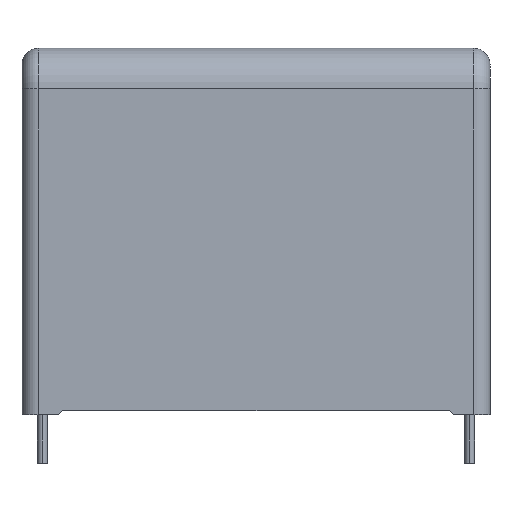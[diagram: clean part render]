
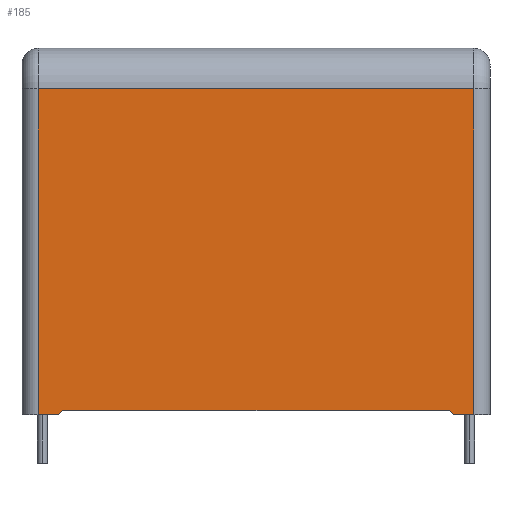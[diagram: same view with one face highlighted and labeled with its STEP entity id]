
A CAD part, top view. The second image highlights one B-rep face of the part: STEP entity #185.
In plain terms, the highlighted planar face has unit normal (0, 0, 1).
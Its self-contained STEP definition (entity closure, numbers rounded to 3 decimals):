
#76 = VECTOR ( 'NONE', #3371, 1000. ) ;
#79 = LINE ( 'NONE', #1671, #76 ) ;
#159 = CARTESIAN_POINT ( 'NONE',  ( -23.75, 0.5, 15. ) ) ;
#185 = ADVANCED_FACE ( 'NONE', ( #4468 ), #587, .F. ) ;
#393 = VERTEX_POINT ( 'NONE', #4246 ) ;
#485 = VECTOR ( 'NONE', #2823, 1000. ) ;
#522 = AXIS2_PLACEMENT_3D ( 'NONE', #581, #566, #563 ) ;
#563 = DIRECTION ( 'NONE',  ( -1., 0., 0. ) ) ;
#566 = DIRECTION ( 'NONE',  ( 0., 0., -1. ) ) ;
#576 = CARTESIAN_POINT ( 'NONE',  ( 26.75, 40., 15. ) ) ;
#581 = CARTESIAN_POINT ( 'NONE',  ( -28.75, 45., 15. ) ) ;
#587 = PLANE ( 'NONE',  #522 ) ;
#610 = CARTESIAN_POINT ( 'NONE',  ( -28.75, 0., 15. ) ) ;
#640 = VECTOR ( 'NONE', #3633, 1000. ) ;
#1143 = CARTESIAN_POINT ( 'NONE',  ( -28.75, 40., 15. ) ) ;
#1210 = DIRECTION ( 'NONE',  ( 0., 1., 0. ) ) ;
#1287 = CARTESIAN_POINT ( 'NONE',  ( -26.75, 0., 15. ) ) ;
#1342 = VERTEX_POINT ( 'NONE', #576 ) ;
#1347 = EDGE_LOOP ( 'NONE', ( #4152, #4167, #4186, #4194, #4209, #4215, #4222, #4235 ) ) ;
#1579 = CARTESIAN_POINT ( 'NONE',  ( -23.75, 0.5, 15. ) ) ;
#1581 = VERTEX_POINT ( 'NONE', #1823 ) ;
#1671 = CARTESIAN_POINT ( 'NONE',  ( -28.75, 0., 15. ) ) ;
#1714 = DIRECTION ( 'NONE',  ( -0.707, -0.707, 0. ) ) ;
#1720 = CARTESIAN_POINT ( 'NONE',  ( -26.75, 40., 15. ) ) ;
#1765 = VERTEX_POINT ( 'NONE', #1579 ) ;
#1818 = DIRECTION ( 'NONE',  ( 0., -1., 0. ) ) ;
#1823 = CARTESIAN_POINT ( 'NONE',  ( 23.75, 0.5, 15. ) ) ;
#1884 = LINE ( 'NONE', #3882, #2466 ) ;
#2039 = VERTEX_POINT ( 'NONE', #1287 ) ;
#2134 = LINE ( 'NONE', #610, #3056 ) ;
#2146 = EDGE_CURVE ( 'NONE', #4353, #2997, #79, .T. ) ;
#2228 = LINE ( 'NONE', #3178, #4011 ) ;
#2232 = EDGE_CURVE ( 'NONE', #1765, #393, #4492, .T. ) ;
#2466 = VECTOR ( 'NONE', #1210, 1000. ) ;
#2473 = VECTOR ( 'NONE', #3836, 1000. ) ;
#2475 = EDGE_CURVE ( 'NONE', #2039, #393, #2134, .T. ) ;
#2600 = CARTESIAN_POINT ( 'NONE',  ( 26.75, 0., 15. ) ) ;
#2731 = EDGE_CURVE ( 'NONE', #4162, #2039, #2228, .T. ) ;
#2757 = CARTESIAN_POINT ( 'NONE',  ( 23.75, 0.5, 15. ) ) ;
#2823 = DIRECTION ( 'NONE',  ( -1., 0., 0. ) ) ;
#2941 = EDGE_CURVE ( 'NONE', #1342, #4162, #3806, .T. ) ;
#2997 = VERTEX_POINT ( 'NONE', #2600 ) ;
#3056 = VECTOR ( 'NONE', #3449, 1000. ) ;
#3079 = CARTESIAN_POINT ( 'NONE',  ( -24.25, 0., 15. ) ) ;
#3141 = EDGE_CURVE ( 'NONE', #2997, #1342, #1884, .T. ) ;
#3178 = CARTESIAN_POINT ( 'NONE',  ( -26.75, 45., 15. ) ) ;
#3249 = LINE ( 'NONE', #159, #485 ) ;
#3340 = EDGE_CURVE ( 'NONE', #4353, #1581, #3467, .T. ) ;
#3371 = DIRECTION ( 'NONE',  ( 1., 0., 0. ) ) ;
#3449 = DIRECTION ( 'NONE',  ( 1., 0., 0. ) ) ;
#3467 = LINE ( 'NONE', #2757, #640 ) ;
#3535 = EDGE_CURVE ( 'NONE', #1581, #1765, #3249, .T. ) ;
#3633 = DIRECTION ( 'NONE',  ( -0.707, 0.707, 0. ) ) ;
#3786 = CARTESIAN_POINT ( 'NONE',  ( 24.25, 0., 15. ) ) ;
#3806 = LINE ( 'NONE', #1143, #2473 ) ;
#3836 = DIRECTION ( 'NONE',  ( -1., 0., 0. ) ) ;
#3882 = CARTESIAN_POINT ( 'NONE',  ( 26.75, 45., 15. ) ) ;
#4011 = VECTOR ( 'NONE', #1818, 1000. ) ;
#4152 = ORIENTED_EDGE ( 'NONE', *, *, #3535, .F. ) ;
#4162 = VERTEX_POINT ( 'NONE', #1720 ) ;
#4167 = ORIENTED_EDGE ( 'NONE', *, *, #3340, .F. ) ;
#4186 = ORIENTED_EDGE ( 'NONE', *, *, #2146, .T. ) ;
#4194 = ORIENTED_EDGE ( 'NONE', *, *, #3141, .T. ) ;
#4209 = ORIENTED_EDGE ( 'NONE', *, *, #2941, .T. ) ;
#4215 = ORIENTED_EDGE ( 'NONE', *, *, #2731, .T. ) ;
#4222 = ORIENTED_EDGE ( 'NONE', *, *, #2475, .T. ) ;
#4235 = ORIENTED_EDGE ( 'NONE', *, *, #2232, .F. ) ;
#4246 = CARTESIAN_POINT ( 'NONE',  ( -24.25, 0., 15. ) ) ;
#4353 = VERTEX_POINT ( 'NONE', #3786 ) ;
#4468 = FACE_OUTER_BOUND ( 'NONE', #1347, .T. ) ;
#4490 = VECTOR ( 'NONE', #1714, 1000. ) ;
#4492 = LINE ( 'NONE', #3079, #4490 ) ;
